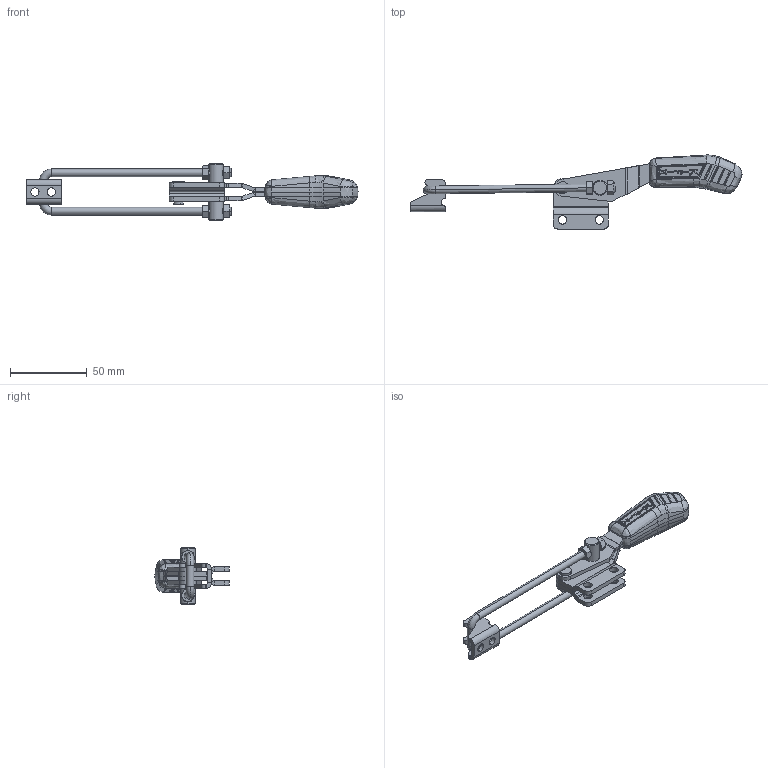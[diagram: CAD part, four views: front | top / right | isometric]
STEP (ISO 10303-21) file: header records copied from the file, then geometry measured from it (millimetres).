
FILE_DESCRIPTION (( 'STEP AP203' ), '1' );
FILE_NAME ('KF-743 RL.STEP', '2014-08-21T16:44:31', ( 'Ricardo' ), ( '' ), 'SwSTEP 2.0', 'SolidWorks 2013', '' );
FILE_SCHEMA (( 'CONFIG_CONTROL_DESIGN' ));
Length unit declared in the file: millimetre
Products named in the file (12): 11.50013; 02.11036_Direita; 07.60005; 02.11036_Esquerda; 06.50023; 01.10053_Direita; KF-743 RL; 01.10053_Esquerda; 16.20034; 03.20067; 15.10026; 11.50005
Assembly tree (13 placements, depth 2):
  KF-743 RL
    02.11036_Direita
    02.11036_Esquerda
    01.10053_Direita
    01.10053_Esquerda
    16.20034
    03.20067
    15.10026
    11.50005  x2
    11.50013  x2
    07.60005
    06.50023
Bounding box: 216.45 x 48.36 x 37 mm (x, y, z)
Volume: 39497.7 mm3; surface area: 27148.9 mm2
Topology: 13 solids, 13 shells, 934 faces, 2356 edges, 1458 vertices
Faces by surface type: bspline 281, cylinder 278, plane 251, cone 66, sphere 50, torus 8
Entity records: 34900 total; most frequent: CARTESIAN_POINT 14991, ORIENTED_EDGE 4476, DIRECTION 3072, EDGE_CURVE 2238, VERTEX_POINT 1391, AXIS2_PLACEMENT_3D 1150, EDGE_LOOP 937, ADVANCED_FACE 885
